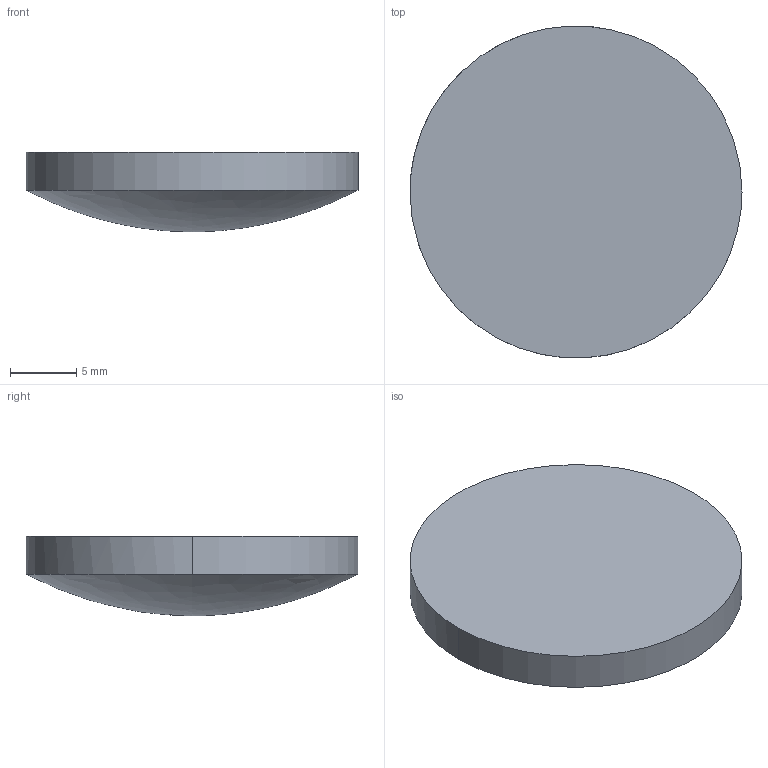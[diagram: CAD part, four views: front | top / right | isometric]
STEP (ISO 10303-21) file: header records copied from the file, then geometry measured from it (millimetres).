
FILE_DESCRIPTION ((), '1');
FILE_NAME ('\\fileserver\Daten\Applikationen\Optikdesign\SPA-Design\aktuelle SPA-Designs\Linsenkataloge - 2016-Juni\Zemax\ALL\ALL25-50.STP', '2016-05-24T14:20:48', ('Unknown'), ('Unknown'), 'HarmonyWare STEP v2.0.1', 'HarmonyWare Translators', '');
FILE_SCHEMA (('CONFIG_CONTROL_DESIGN'));
Length unit declared in the file: millimetre
Products named in the file (1): NONE
Bounding box: 25 x 24.98 x 6 mm (x, y, z)
Volume: 2184.1 mm3; surface area: 1237.7 mm2
Topology: 1 solids, 1 shells, 4 faces, 9 edges, 6 vertices
Faces by surface type: cylinder 2, bspline 1, plane 1
Entity records: 265 total; most frequent: CARTESIAN_POINT 114, ORIENTED_EDGE 16, EDGE_CURVE 8, PERSON 8, ORGANIZATION 8, PERSON_AND_ORGANIZATION 8, VERTEX_POINT 6, DIRECTION 6
